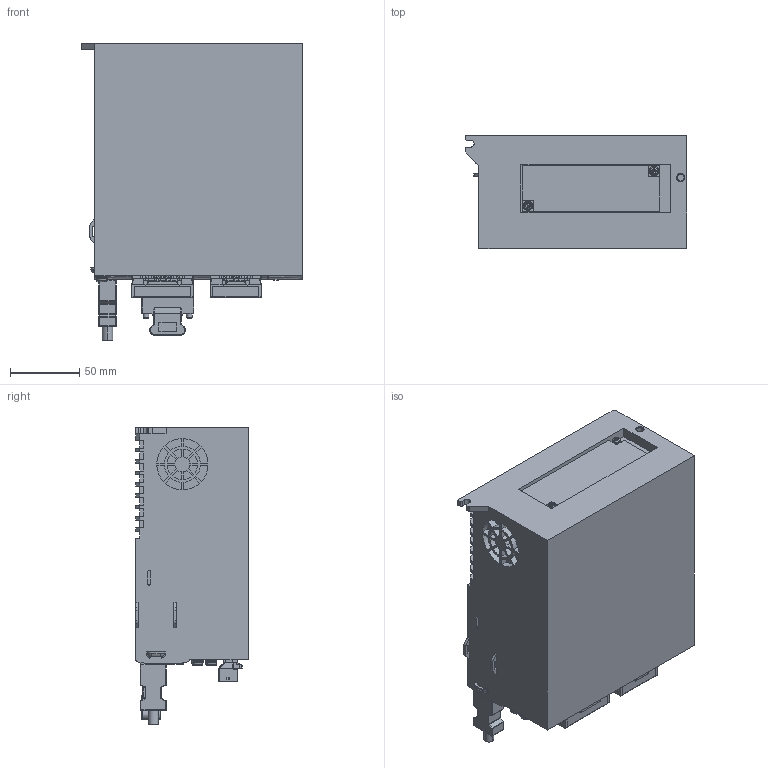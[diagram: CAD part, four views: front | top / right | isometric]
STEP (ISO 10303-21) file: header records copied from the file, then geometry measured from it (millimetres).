
FILE_DESCRIPTION (( 'STEP AP214' ), '1' );
FILE_NAME ('Ω6s-AN-C型-通用&基础-整机外形图.STEP', '2023-04-19T05:36:35', ( '' ), ( '' ), 'SwSTEP 2.0', 'SolidWorks 2014', '' );
FILE_SCHEMA (( 'AUTOMOTIVE_DESIGN' ));
Length unit declared in the file: millimetre
Products named in the file (23): JDZcoder; STOM2X04P; 26pinMDRplug; M3-H6; jack-t3507506; M4-H8; jack-t3507505; plug-t3507505; 1.5KWK; plug-t3507506; 次6s-AN-C倰-籵蚚&價插-淕儂俋倛芞
Assembly tree (12 placements, depth 2):
  STOM2X04P
  M3-H6
  JDZcoder
  M4-H8
  plug-t3507505
Bounding box: 160 x 81.5 x 214.2 mm (x, y, z)
Volume: 1851491.3 mm3; surface area: 233232.4 mm2
Topology: 23 solids, 23 shells, 4443 faces, 12399 edges, 8033 vertices
Faces by surface type: plane 3395, cylinder 541, bspline 453, sphere 22, cone 20, torus 12
Entity records: 159002 total; most frequent: CARTESIAN_POINT 49288, ORIENTED_EDGE 24358, DIRECTION 19527, EDGE_CURVE 12179, LINE 9977, VECTOR 9977, VERTEX_POINT 7905, AXIS2_PLACEMENT_3D 4775
